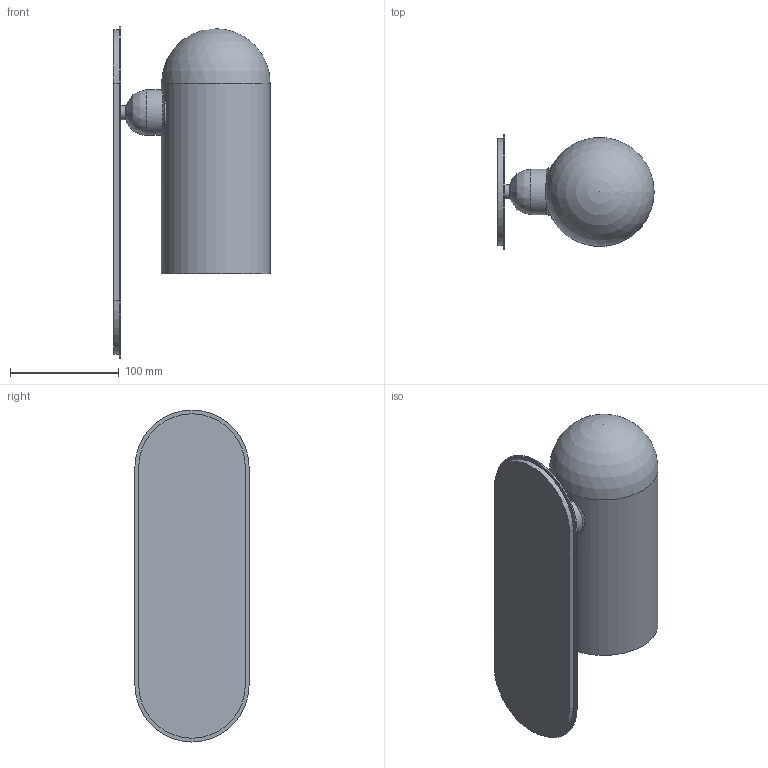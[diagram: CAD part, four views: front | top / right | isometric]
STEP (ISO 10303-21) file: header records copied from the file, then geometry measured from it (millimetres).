
FILE_DESCRIPTION(/* description */ (''),/* implementation_level */ '2;1');
FILE_NAME(/* name */ 'T:\B146 Odyssey Wall Scone MD\Pliki bryłowe handlowe\B146 Odyssey MD 3D files\B146 Odyssey MD.stp',/* time_stamp */ '2022-01-24T14:02:08+01:00',/* author */ ('Mariusz Awariusz'),/* organization */ (''),/* preprocessor_version */ 'ST-DEVELOPER v18.1',/* originating_system */ 'Autodesk Inventor 2022',/* authorisation */ '');
FILE_SCHEMA (('AUTOMOTIVE_DESIGN { 1 0 10303 214 3 1 1 }'));
Length unit declared in the file: millimetre
Products named in the file (1): Odyssey Sconce MD CE v12_na potrzeby plików 3D_2_jako część
Bounding box: 143.55 x 105 x 305 mm (x, y, z)
Volume: 1856035.8 mm3; surface area: 146202 mm2
Topology: 1 solids, 3 shells, 35 faces, 77 edges, 51 vertices
Faces by surface type: plane 15, cylinder 13, bspline 6, sphere 1
Full cylindrical faces by diameter (mm): 13 x1, 42 x1, 100 x1
Entity records: 2283 total; most frequent: CARTESIAN_POINT 1503, ORIENTED_EDGE 152, DIRECTION 144, EDGE_CURVE 76, AXIS2_PLACEMENT_3D 57, VERTEX_POINT 51, EDGE_LOOP 39, FACE_OUTER_BOUND 35
